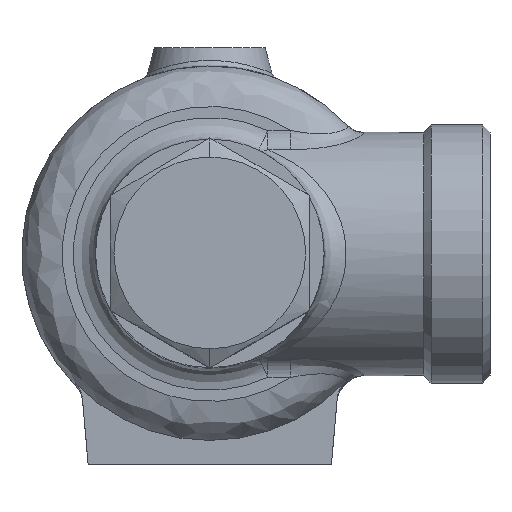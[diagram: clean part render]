
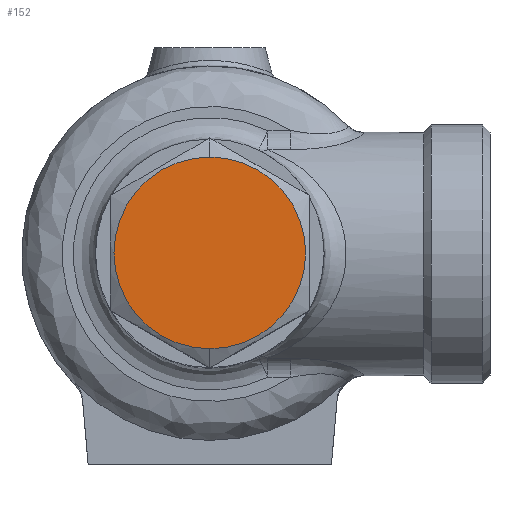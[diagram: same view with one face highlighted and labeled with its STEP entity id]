
A CAD part, top view. The second image highlights one B-rep face of the part: STEP entity #152.
In plain terms, the highlighted planar face has unit normal (0, 0, 1) as drawn and (0, 1, 0) by its records, which use the part's own axes.
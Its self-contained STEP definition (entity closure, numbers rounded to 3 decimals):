
#152=ADVANCED_FACE('',(#962),#961,.T.);
#961=PLANE('',#2694);
#962=FACE_OUTER_BOUND('',#2695,.T.);
#2691=CARTESIAN_POINT('',(-27.02,86.5,-29.9));
#2692=DIRECTION('',(0.,1.,0.));
#2693=DIRECTION('',(0.,0.,1.));
#2694=AXIS2_PLACEMENT_3D('',#2691,#2692,#2693);
#2695=EDGE_LOOP('',(#3309,#3310));
#3309=ORIENTED_EDGE('',*,*,#3713,.T.);
#3310=ORIENTED_EDGE('',*,*,#3714,.T.);
#3713=EDGE_CURVE('',#5184,#5185,#5186,.T.);
#3714=EDGE_CURVE('',#5185,#5184,#5192,.T.);
#5184=VERTEX_POINT('',#7020);
#5185=VERTEX_POINT('',#7021);
#5186=CIRCLE('',#7025,13.);
#5192=CIRCLE('',#7029,13.);
#7020=CARTESIAN_POINT('',(0.,86.5,13.));
#7021=CARTESIAN_POINT('',(0.,86.5,-13.));
#7022=CARTESIAN_POINT('',(0.,86.5,0.));
#7023=DIRECTION('',(0.,1.,0.));
#7024=DIRECTION('',(0.,0.,1.));
#7025=AXIS2_PLACEMENT_3D('',#7022,#7023,#7024);
#7026=CARTESIAN_POINT('',(0.,86.5,0.));
#7027=DIRECTION('',(0.,1.,0.));
#7028=DIRECTION('',(0.,0.,1.));
#7029=AXIS2_PLACEMENT_3D('',#7026,#7027,#7028);
